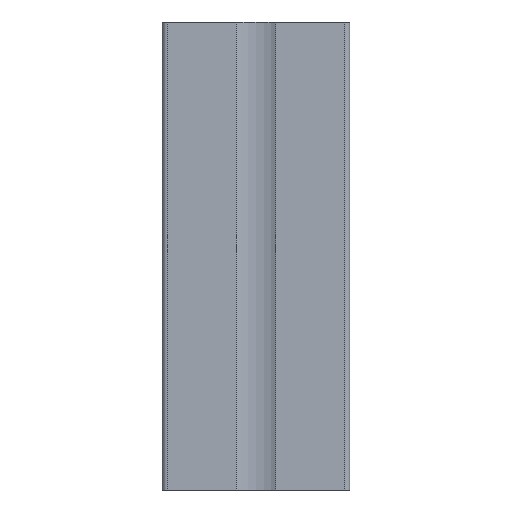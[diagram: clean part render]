
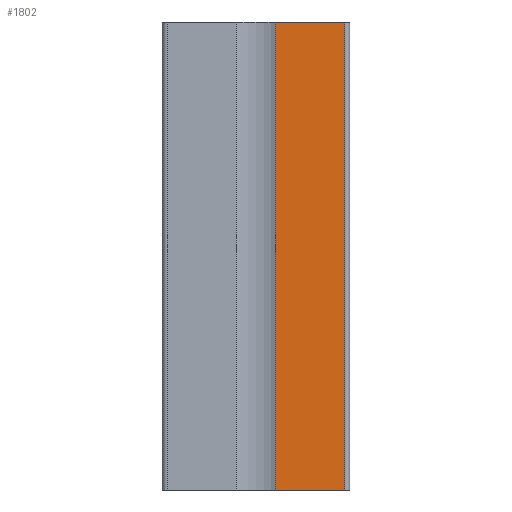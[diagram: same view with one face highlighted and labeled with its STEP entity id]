
A CAD part, front view. The second image highlights one B-rep face of the part: STEP entity #1802.
In plain terms, the highlighted planar face has unit normal (0, -1, 0).
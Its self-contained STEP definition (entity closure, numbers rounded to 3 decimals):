
#360 = LINE ( 'NONE', #4520, #3379 ) ;
#425 = VECTOR ( 'NONE', #5629, 1000. ) ;
#492 = CARTESIAN_POINT ( 'NONE',  ( 4.2, -20., -100. ) ) ;
#526 = VERTEX_POINT ( 'NONE', #492 ) ;
#585 = LINE ( 'NONE', #3657, #5612 ) ;
#623 = CARTESIAN_POINT ( 'NONE',  ( 19., -20., -100. ) ) ;
#625 = EDGE_CURVE ( 'NONE', #2228, #526, #360, .T. ) ;
#894 = LINE ( 'NONE', #2955, #425 ) ;
#1258 = AXIS2_PLACEMENT_3D ( 'NONE', #6499, #2588, #1853 ) ;
#1536 = VERTEX_POINT ( 'NONE', #3109 ) ;
#1802 = ADVANCED_FACE ( 'NONE', ( #4429 ), #2399, .F. ) ;
#1853 = DIRECTION ( 'NONE',  ( 0., 0., 1. ) ) ;
#2095 = EDGE_CURVE ( 'NONE', #526, #1536, #894, .T. ) ;
#2219 = CARTESIAN_POINT ( 'NONE',  ( 19., -20., 0. ) ) ;
#2228 = VERTEX_POINT ( 'NONE', #623 ) ;
#2256 = EDGE_CURVE ( 'NONE', #2228, #6360, #585, .T. ) ;
#2399 = PLANE ( 'NONE',  #1258 ) ;
#2588 = DIRECTION ( 'NONE',  ( 0., 1., 0. ) ) ;
#2796 = ORIENTED_EDGE ( 'NONE', *, *, #2811, .T. ) ;
#2811 = EDGE_CURVE ( 'NONE', #6360, #1536, #4836, .T. ) ;
#2955 = CARTESIAN_POINT ( 'NONE',  ( 4.2, -20., -100. ) ) ;
#3109 = CARTESIAN_POINT ( 'NONE',  ( 4.2, -20., 0. ) ) ;
#3379 = VECTOR ( 'NONE', #5774, 1000. ) ;
#3657 = CARTESIAN_POINT ( 'NONE',  ( 19., -20., -100. ) ) ;
#3856 = CARTESIAN_POINT ( 'NONE',  ( 0., -20., 0. ) ) ;
#3984 = ORIENTED_EDGE ( 'NONE', *, *, #2095, .F. ) ;
#4219 = VECTOR ( 'NONE', #5919, 1000. ) ;
#4302 = ORIENTED_EDGE ( 'NONE', *, *, #625, .F. ) ;
#4429 = FACE_OUTER_BOUND ( 'NONE', #5438, .T. ) ;
#4520 = CARTESIAN_POINT ( 'NONE',  ( 0., -20., -100. ) ) ;
#4836 = LINE ( 'NONE', #3856, #4219 ) ;
#5270 = ORIENTED_EDGE ( 'NONE', *, *, #2256, .T. ) ;
#5438 = EDGE_LOOP ( 'NONE', ( #2796, #3984, #4302, #5270 ) ) ;
#5612 = VECTOR ( 'NONE', #5734, 1000. ) ;
#5629 = DIRECTION ( 'NONE',  ( 0., 0., 1. ) ) ;
#5734 = DIRECTION ( 'NONE',  ( 0., 0., 1. ) ) ;
#5774 = DIRECTION ( 'NONE',  ( -1., 0., 0. ) ) ;
#5919 = DIRECTION ( 'NONE',  ( -1., 0., 0. ) ) ;
#6360 = VERTEX_POINT ( 'NONE', #2219 ) ;
#6499 = CARTESIAN_POINT ( 'NONE',  ( 0., -20., -100. ) ) ;
